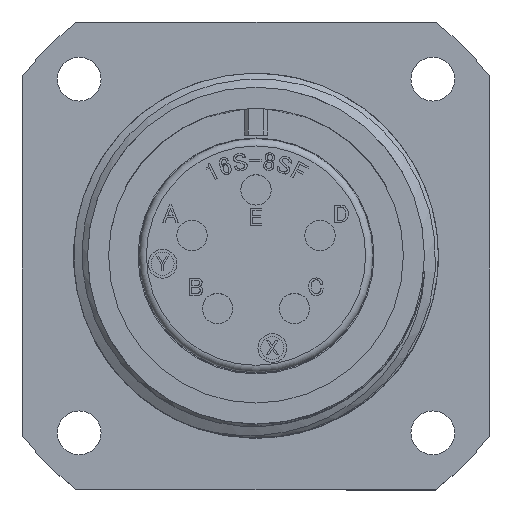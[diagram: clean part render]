
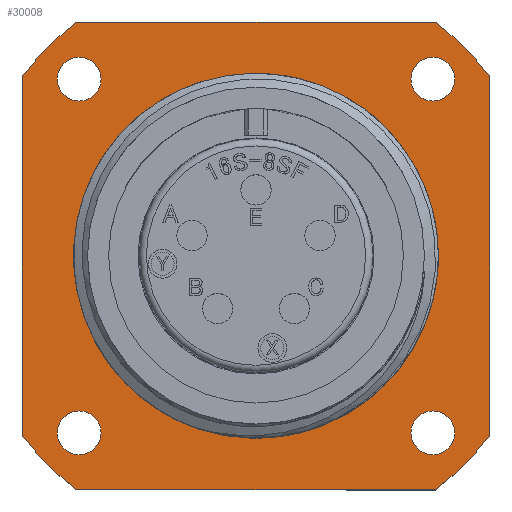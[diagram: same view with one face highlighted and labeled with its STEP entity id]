
A CAD part, top view. The second image highlights one B-rep face of the part: STEP entity #30008.
In plain terms, the highlighted planar face has unit normal (0, 0, 1).
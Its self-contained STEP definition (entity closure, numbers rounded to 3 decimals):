
#14 = DIRECTION ( 'NONE',  ( 0., 0., -1. ) ) ;
#125 = ORIENTED_EDGE ( 'NONE', *, *, #16133, .F. ) ;
#236 = EDGE_CURVE ( 'NONE', #9466, #14932, #20579, .T. ) ;
#316 = CARTESIAN_POINT ( 'NONE',  ( 10.775, 12.3, -14.47 ) ) ;
#438 = VERTEX_POINT ( 'NONE', #12059 ) ;
#553 = CARTESIAN_POINT ( 'NONE',  ( 0., 0., -14.47 ) ) ;
#794 = CARTESIAN_POINT ( 'NONE',  ( -16.27, 12.471, -14.47 ) ) ;
#1007 = DIRECTION ( 'NONE',  ( 0., 1., 0. ) ) ;
#1018 = CARTESIAN_POINT ( 'NONE',  ( 0., 0., -14.47 ) ) ;
#1267 = DIRECTION ( 'NONE',  ( 0., 0., 1. ) ) ;
#2388 = CARTESIAN_POINT ( 'NONE',  ( 16.27, 12.471, -14.47 ) ) ;
#2445 = CIRCLE ( 'NONE', #29238, 1.525 ) ;
#2523 = PLANE ( 'NONE',  #15319 ) ;
#2573 = DIRECTION ( 'NONE',  ( 1., 0., 0. ) ) ;
#2710 = CARTESIAN_POINT ( 'NONE',  ( 12.471, -16.27, -14.47 ) ) ;
#2870 = EDGE_CURVE ( 'NONE', #23242, #6847, #17808, .T. ) ;
#3028 = VECTOR ( 'NONE', #27859, 1000. ) ;
#3238 = DIRECTION ( 'NONE',  ( 0., 0., 1. ) ) ;
#3547 = DIRECTION ( 'NONE',  ( 0., 0., 1. ) ) ;
#3621 = CIRCLE ( 'NONE', #6507, 12.68 ) ;
#3776 = EDGE_CURVE ( 'NONE', #9466, #31379, #23249, .T. ) ;
#4487 = CARTESIAN_POINT ( 'NONE',  ( -16.27, -12.471, -14.47 ) ) ;
#4972 = CARTESIAN_POINT ( 'NONE',  ( -12.471, 16.27, -14.47 ) ) ;
#4985 = EDGE_CURVE ( 'NONE', #12417, #12417, #11845, .T. ) ;
#5270 = VERTEX_POINT ( 'NONE', #20135 ) ;
#5427 = LINE ( 'NONE', #8090, #3028 ) ;
#5488 = DIRECTION ( 'NONE',  ( 0., 0., 1. ) ) ;
#6059 = VERTEX_POINT ( 'NONE', #7800 ) ;
#6067 = AXIS2_PLACEMENT_3D ( 'NONE', #10350, #20557, #2573 ) ;
#6214 = LINE ( 'NONE', #11869, #32128 ) ;
#6445 = VERTEX_POINT ( 'NONE', #22771 ) ;
#6507 = AXIS2_PLACEMENT_3D ( 'NONE', #12396, #15128, #29922 ) ;
#6847 = VERTEX_POINT ( 'NONE', #19141 ) ;
#7119 = EDGE_CURVE ( 'NONE', #23242, #438, #19243, .T. ) ;
#7478 = CARTESIAN_POINT ( 'NONE',  ( 16.27, -12.471, -14.47 ) ) ;
#7758 = FACE_BOUND ( 'NONE', #15802, .T. ) ;
#7800 = CARTESIAN_POINT ( 'NONE',  ( -10.775, 12.3, -14.47 ) ) ;
#8090 = CARTESIAN_POINT ( 'NONE',  ( 12.471, 16.27, -14.47 ) ) ;
#8828 = EDGE_CURVE ( 'NONE', #21058, #438, #26614, .T. ) ;
#8982 = ORIENTED_EDGE ( 'NONE', *, *, #13160, .F. ) ;
#9279 = VERTEX_POINT ( 'NONE', #25380 ) ;
#9466 = VERTEX_POINT ( 'NONE', #2388 ) ;
#9580 = CARTESIAN_POINT ( 'NONE',  ( -12.3, -12.3, -14.47 ) ) ;
#9721 = EDGE_LOOP ( 'NONE', ( #14711, #12547, #10386, #20904, #22980, #8982, #20360, #17612 ) ) ;
#9767 = DIRECTION ( 'NONE',  ( -1., 0., 0. ) ) ;
#9831 = CARTESIAN_POINT ( 'NONE',  ( 16.27, 12.471, -14.47 ) ) ;
#10012 = EDGE_CURVE ( 'NONE', #6445, #6445, #28907, .T. ) ;
#10350 = CARTESIAN_POINT ( 'NONE',  ( -12.3, 12.3, -14.47 ) ) ;
#10386 = ORIENTED_EDGE ( 'NONE', *, *, #25094, .T. ) ;
#10702 = VECTOR ( 'NONE', #32144, 1000. ) ;
#10858 = AXIS2_PLACEMENT_3D ( 'NONE', #18572, #3238, #23287 ) ;
#10865 = DIRECTION ( 'NONE',  ( 1., 0., 0. ) ) ;
#11307 = DIRECTION ( 'NONE',  ( 1., 0., 0. ) ) ;
#11845 = CIRCLE ( 'NONE', #10858, 1.525 ) ;
#11869 = CARTESIAN_POINT ( 'NONE',  ( 12.471, -16.27, -14.47 ) ) ;
#12059 = CARTESIAN_POINT ( 'NONE',  ( -16.27, 12.471, -14.47 ) ) ;
#12396 = CARTESIAN_POINT ( 'NONE',  ( 0., 0., -14.47 ) ) ;
#12417 = VERTEX_POINT ( 'NONE', #316 ) ;
#12547 = ORIENTED_EDGE ( 'NONE', *, *, #27444, .F. ) ;
#13160 = EDGE_CURVE ( 'NONE', #21058, #14932, #5427, .T. ) ;
#14711 = ORIENTED_EDGE ( 'NONE', *, *, #2870, .T. ) ;
#14932 = VERTEX_POINT ( 'NONE', #26185 ) ;
#15128 = DIRECTION ( 'NONE',  ( 0., 0., 1. ) ) ;
#15213 = DIRECTION ( 'NONE',  ( -1., 0., 0. ) ) ;
#15245 = FACE_BOUND ( 'NONE', #20211, .T. ) ;
#15280 = DIRECTION ( 'NONE',  ( 0., 0., 1. ) ) ;
#15319 = AXIS2_PLACEMENT_3D ( 'NONE', #30208, #14, #15213 ) ;
#15802 = EDGE_LOOP ( 'NONE', ( #20757 ) ) ;
#15808 = AXIS2_PLACEMENT_3D ( 'NONE', #1018, #3547, #10865 ) ;
#15943 = CIRCLE ( 'NONE', #6067, 1.525 ) ;
#16133 = EDGE_CURVE ( 'NONE', #6059, #6059, #15943, .T. ) ;
#17414 = EDGE_CURVE ( 'NONE', #9279, #9279, #2445, .T. ) ;
#17612 = ORIENTED_EDGE ( 'NONE', *, *, #7119, .F. ) ;
#17808 = CIRCLE ( 'NONE', #23431, 20.5 ) ;
#17892 = EDGE_CURVE ( 'NONE', #5270, #5270, #3621, .T. ) ;
#17955 = ORIENTED_EDGE ( 'NONE', *, *, #17414, .F. ) ;
#18147 = CARTESIAN_POINT ( 'NONE',  ( 12.3, -12.3, -14.47 ) ) ;
#18572 = CARTESIAN_POINT ( 'NONE',  ( 12.3, 12.3, -14.47 ) ) ;
#18775 = CARTESIAN_POINT ( 'NONE',  ( 0., 0., -14.47 ) ) ;
#19092 = AXIS2_PLACEMENT_3D ( 'NONE', #553, #5488, #23006 ) ;
#19141 = CARTESIAN_POINT ( 'NONE',  ( -12.471, -16.27, -14.47 ) ) ;
#19243 = LINE ( 'NONE', #794, #23915 ) ;
#20135 = CARTESIAN_POINT ( 'NONE',  ( 12.68, 0., -14.47 ) ) ;
#20211 = EDGE_LOOP ( 'NONE', ( #125 ) ) ;
#20234 = DIRECTION ( 'NONE',  ( 1., 0., 0. ) ) ;
#20360 = ORIENTED_EDGE ( 'NONE', *, *, #8828, .T. ) ;
#20557 = DIRECTION ( 'NONE',  ( 0., 0., 1. ) ) ;
#20579 = CIRCLE ( 'NONE', #15808, 20.5 ) ;
#20757 = ORIENTED_EDGE ( 'NONE', *, *, #17892, .F. ) ;
#20904 = ORIENTED_EDGE ( 'NONE', *, *, #3776, .F. ) ;
#21058 = VERTEX_POINT ( 'NONE', #4972 ) ;
#21651 = AXIS2_PLACEMENT_3D ( 'NONE', #18775, #29067, #11307 ) ;
#21887 = EDGE_LOOP ( 'NONE', ( #17955 ) ) ;
#22330 = FACE_OUTER_BOUND ( 'NONE', #9721, .T. ) ;
#22771 = CARTESIAN_POINT ( 'NONE',  ( -13.825, -12.3, -14.47 ) ) ;
#22980 = ORIENTED_EDGE ( 'NONE', *, *, #236, .T. ) ;
#23006 = DIRECTION ( 'NONE',  ( 1., 0., 0. ) ) ;
#23242 = VERTEX_POINT ( 'NONE', #4487 ) ;
#23249 = LINE ( 'NONE', #9831, #10702 ) ;
#23287 = DIRECTION ( 'NONE',  ( -1., 0., 0. ) ) ;
#23431 = AXIS2_PLACEMENT_3D ( 'NONE', #23722, #1267, #28858 ) ;
#23722 = CARTESIAN_POINT ( 'NONE',  ( 0., 0., -14.47 ) ) ;
#23915 = VECTOR ( 'NONE', #1007, 1000. ) ;
#24026 = EDGE_LOOP ( 'NONE', ( #24926 ) ) ;
#24383 = DIRECTION ( 'NONE',  ( -1., 0., 0. ) ) ;
#24926 = ORIENTED_EDGE ( 'NONE', *, *, #10012, .F. ) ;
#25094 = EDGE_CURVE ( 'NONE', #26871, #31379, #25848, .T. ) ;
#25380 = CARTESIAN_POINT ( 'NONE',  ( 13.825, -12.3, -14.47 ) ) ;
#25451 = FACE_BOUND ( 'NONE', #21887, .T. ) ;
#25848 = CIRCLE ( 'NONE', #19092, 20.5 ) ;
#26185 = CARTESIAN_POINT ( 'NONE',  ( 12.471, 16.27, -14.47 ) ) ;
#26614 = CIRCLE ( 'NONE', #21651, 20.5 ) ;
#26871 = VERTEX_POINT ( 'NONE', #2710 ) ;
#27444 = EDGE_CURVE ( 'NONE', #26871, #6847, #6214, .T. ) ;
#27859 = DIRECTION ( 'NONE',  ( 1., 0., 0. ) ) ;
#28023 = EDGE_LOOP ( 'NONE', ( #30040 ) ) ;
#28858 = DIRECTION ( 'NONE',  ( 1., 0., 0. ) ) ;
#28907 = CIRCLE ( 'NONE', #29388, 1.525 ) ;
#28976 = FACE_BOUND ( 'NONE', #28023, .T. ) ;
#29067 = DIRECTION ( 'NONE',  ( 0., 0., 1. ) ) ;
#29238 = AXIS2_PLACEMENT_3D ( 'NONE', #18147, #15280, #20234 ) ;
#29384 = FACE_BOUND ( 'NONE', #24026, .T. ) ;
#29388 = AXIS2_PLACEMENT_3D ( 'NONE', #9580, #32111, #24383 ) ;
#29922 = DIRECTION ( 'NONE',  ( 1., 0., 0. ) ) ;
#30008 = ADVANCED_FACE ( 'NONE', ( #29384, #25451, #28976, #15245, #7758, #22330 ), #2523, .F. ) ;
#30040 = ORIENTED_EDGE ( 'NONE', *, *, #4985, .F. ) ;
#30208 = CARTESIAN_POINT ( 'NONE',  ( 0., 12.68, -14.47 ) ) ;
#31379 = VERTEX_POINT ( 'NONE', #7478 ) ;
#32111 = DIRECTION ( 'NONE',  ( 0., 0., 1. ) ) ;
#32128 = VECTOR ( 'NONE', #9767, 1000. ) ;
#32144 = DIRECTION ( 'NONE',  ( 0., -1., 0. ) ) ;
